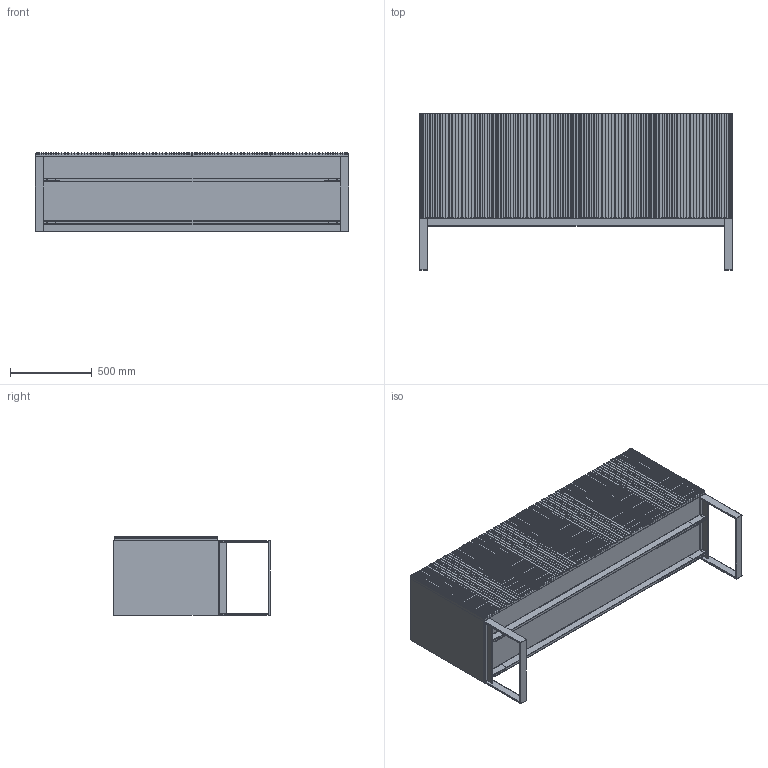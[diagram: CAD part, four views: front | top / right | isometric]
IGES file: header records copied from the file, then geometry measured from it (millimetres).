
Start section: SolidWorks IGES file using analytic representation for surfaces
Global section: file name: C:\Users\Matteo\Desktop\_Horm\_carlos\_collezione carlos\_IGS CARLOS\CARLOS cm 192X49X96H.IGS; native system: SolidWorks 2010; preprocessor: SolidWorks 2010; author: Matteo; date: 160224.162008; units: millimetre
Bounding box: 1920 x 960 x 484 mm (x, y, z)
Surface area: 11581296.1 mm2 (no closed solid volume)
Topology: 0 solids, 0 shells, 1738 faces, 14199 edges, 14191 vertices
Faces by surface type: bspline 1407, revolution 331
